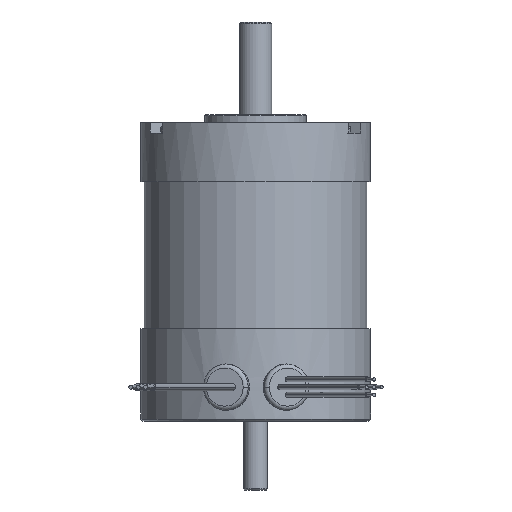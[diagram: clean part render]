
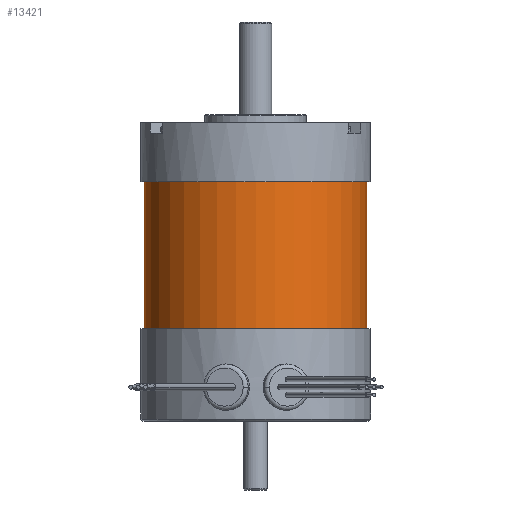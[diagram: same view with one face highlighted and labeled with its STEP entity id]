
A CAD part, front view. The second image highlights one B-rep face of the part: STEP entity #13421.
In plain terms, the highlighted cylindrical face has radius 27.495 mm (diameter 54.991 mm), a partial arc.
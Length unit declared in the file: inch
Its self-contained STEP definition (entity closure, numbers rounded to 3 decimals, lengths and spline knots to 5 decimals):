
#56 = VECTOR ( 'NONE', #7504, 39.37008 ) ;
#207 = VERTEX_POINT ( 'NONE', #11962 ) ;
#330 = VERTEX_POINT ( 'NONE', #3911 ) ;
#410 = VECTOR ( 'NONE', #9550, 39.37008 ) ;
#814 = DIRECTION ( 'NONE',  ( 1., 0., 0. ) ) ;
#1375 = CIRCLE ( 'NONE', #9708, 1.0825 ) ;
#1763 = CYLINDRICAL_SURFACE ( 'NONE', #4342, 1.0825 ) ;
#1898 = CARTESIAN_POINT ( 'NONE',  ( 0., 0., -2. ) ) ;
#2052 = DIRECTION ( 'NONE',  ( 0., 0., -1. ) ) ;
#2065 = CARTESIAN_POINT ( 'NONE',  ( -1.0825, 0., -2. ) ) ;
#2968 = LINE ( 'NONE', #11745, #56 ) ;
#3602 = ORIENTED_EDGE ( 'NONE', *, *, #11667, .F. ) ;
#3911 = CARTESIAN_POINT ( 'NONE',  ( 1.0825, 0., -2. ) ) ;
#4134 = CARTESIAN_POINT ( 'NONE',  ( -1.0825, 0., -0.575 ) ) ;
#4342 = AXIS2_PLACEMENT_3D ( 'NONE', #1898, #9376, #814 ) ;
#4810 = DIRECTION ( 'NONE',  ( 0., 0., -1. ) ) ;
#5798 = VERTEX_POINT ( 'NONE', #13430 ) ;
#6280 = FACE_OUTER_BOUND ( 'NONE', #8182, .T. ) ;
#7164 = ORIENTED_EDGE ( 'NONE', *, *, #8447, .F. ) ;
#7504 = DIRECTION ( 'NONE',  ( 0., 0., 1. ) ) ;
#8182 = EDGE_LOOP ( 'NONE', ( #7164, #3602, #10619, #9663 ) ) ;
#8447 = EDGE_CURVE ( 'NONE', #207, #9559, #11835, .T. ) ;
#8471 = CARTESIAN_POINT ( 'NONE',  ( 0., 0., -0.575 ) ) ;
#8506 = EDGE_CURVE ( 'NONE', #330, #5798, #2968, .T. ) ;
#9376 = DIRECTION ( 'NONE',  ( 0., 0., 1. ) ) ;
#9530 = DIRECTION ( 'NONE',  ( -1., 0., 0. ) ) ;
#9550 = DIRECTION ( 'NONE',  ( 0., 0., 1. ) ) ;
#9559 = VERTEX_POINT ( 'NONE', #4134 ) ;
#9663 = ORIENTED_EDGE ( 'NONE', *, *, #12822, .T. ) ;
#9708 = AXIS2_PLACEMENT_3D ( 'NONE', #8471, #2052, #9530 ) ;
#10619 = ORIENTED_EDGE ( 'NONE', *, *, #8506, .T. ) ;
#11204 = CARTESIAN_POINT ( 'NONE',  ( 0., 0., -2. ) ) ;
#11667 = EDGE_CURVE ( 'NONE', #330, #207, #11844, .T. ) ;
#11745 = CARTESIAN_POINT ( 'NONE',  ( 1.0825, 0., -2. ) ) ;
#11835 = LINE ( 'NONE', #2065, #410 ) ;
#11844 = CIRCLE ( 'NONE', #13250, 1.0825 ) ;
#11962 = CARTESIAN_POINT ( 'NONE',  ( -1.0825, 0., -2. ) ) ;
#12283 = DIRECTION ( 'NONE',  ( -1., 0., 0. ) ) ;
#12822 = EDGE_CURVE ( 'NONE', #5798, #9559, #1375, .T. ) ;
#13250 = AXIS2_PLACEMENT_3D ( 'NONE', #11204, #4810, #12283 ) ;
#13421 = ADVANCED_FACE ( 'NONE', ( #6280 ), #1763, .T. ) ;
#13430 = CARTESIAN_POINT ( 'NONE',  ( 1.0825, 0., -0.575 ) ) ;
